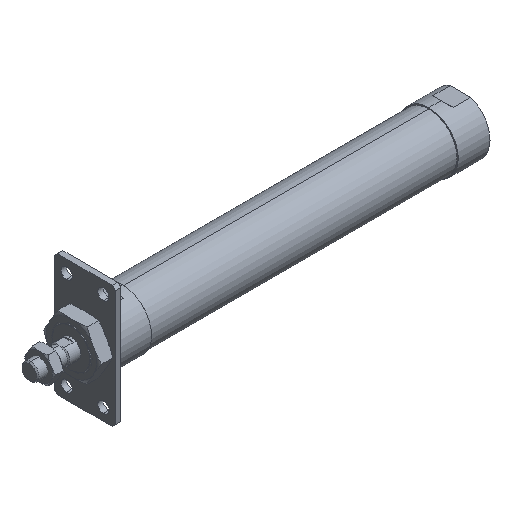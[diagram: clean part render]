
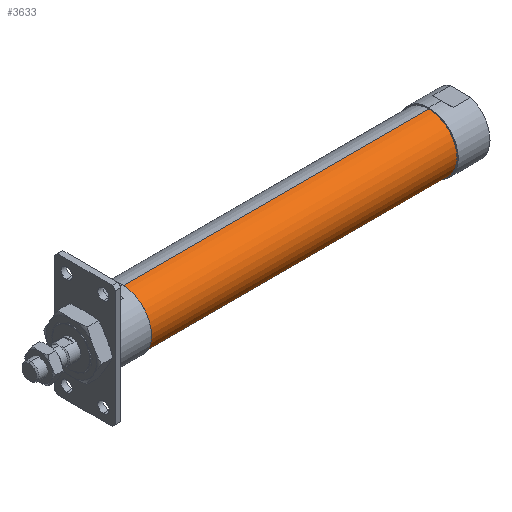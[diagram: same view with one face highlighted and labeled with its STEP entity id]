
A CAD part, isometric view. The second image highlights one B-rep face of the part: STEP entity #3633.
In plain terms, the highlighted cylindrical face has radius 23 mm (diameter 46 mm), a partial arc.
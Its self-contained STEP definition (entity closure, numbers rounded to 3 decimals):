
#163 = CIRCLE ( 'NONE', #3012, 23. ) ;
#172 = ORIENTED_EDGE ( 'NONE', *, *, #469, .T. ) ;
#275 = ORIENTED_EDGE ( 'NONE', *, *, #1481, .T. ) ;
#402 = DIRECTION ( 'NONE',  ( -1., 0., 0. ) ) ;
#428 = CARTESIAN_POINT ( 'NONE',  ( 327., 0., 0. ) ) ;
#469 = EDGE_CURVE ( 'NONE', #2083, #1883, #1876, .T. ) ;
#517 = ORIENTED_EDGE ( 'NONE', *, *, #993, .F. ) ;
#620 = DIRECTION ( 'NONE',  ( -1., 0., 0. ) ) ;
#804 = VECTOR ( 'NONE', #620, 1000. ) ;
#893 = CARTESIAN_POINT ( 'NONE',  ( -1.784, 0., -23. ) ) ;
#993 = EDGE_CURVE ( 'NONE', #2083, #3109, #2169, .T. ) ;
#1004 = VECTOR ( 'NONE', #2916, 1000. ) ;
#1020 = CARTESIAN_POINT ( 'NONE',  ( 76., 0., 0. ) ) ;
#1038 = DIRECTION ( 'NONE',  ( 0., 0., 1. ) ) ;
#1478 = EDGE_CURVE ( 'NONE', #3109, #2645, #163, .T. ) ;
#1481 = EDGE_CURVE ( 'NONE', #1883, #2645, #3620, .T. ) ;
#1876 = CIRCLE ( 'NONE', #3754, 23. ) ;
#1883 = VERTEX_POINT ( 'NONE', #1966 ) ;
#1966 = CARTESIAN_POINT ( 'NONE',  ( 327., 0., 23. ) ) ;
#2083 = VERTEX_POINT ( 'NONE', #3667 ) ;
#2169 = LINE ( 'NONE', #893, #1004 ) ;
#2188 = ORIENTED_EDGE ( 'NONE', *, *, #1478, .F. ) ;
#2204 = FACE_OUTER_BOUND ( 'NONE', #3824, .T. ) ;
#2210 = DIRECTION ( 'NONE',  ( 0., 0., 1. ) ) ;
#2470 = DIRECTION ( 'NONE',  ( 0., 0., 1. ) ) ;
#2519 = DIRECTION ( 'NONE',  ( -1., 0., 0. ) ) ;
#2645 = VERTEX_POINT ( 'NONE', #3693 ) ;
#2821 = CARTESIAN_POINT ( 'NONE',  ( 76., 0., -23. ) ) ;
#2916 = DIRECTION ( 'NONE',  ( -1., 0., 0. ) ) ;
#3012 = AXIS2_PLACEMENT_3D ( 'NONE', #1020, #3698, #2470 ) ;
#3109 = VERTEX_POINT ( 'NONE', #2821 ) ;
#3228 = CARTESIAN_POINT ( 'NONE',  ( -1.784, 0., 0. ) ) ;
#3508 = CYLINDRICAL_SURFACE ( 'NONE', #3779, 23. ) ;
#3620 = LINE ( 'NONE', #3771, #804 ) ;
#3633 = ADVANCED_FACE ( 'NONE', ( #2204 ), #3508, .T. ) ;
#3667 = CARTESIAN_POINT ( 'NONE',  ( 327., 0., -23. ) ) ;
#3693 = CARTESIAN_POINT ( 'NONE',  ( 76., 0., 23. ) ) ;
#3698 = DIRECTION ( 'NONE',  ( -1., 0., 0. ) ) ;
#3754 = AXIS2_PLACEMENT_3D ( 'NONE', #428, #402, #1038 ) ;
#3771 = CARTESIAN_POINT ( 'NONE',  ( -1.784, 0., 23. ) ) ;
#3779 = AXIS2_PLACEMENT_3D ( 'NONE', #3228, #2519, #2210 ) ;
#3824 = EDGE_LOOP ( 'NONE', ( #517, #172, #275, #2188 ) ) ;
